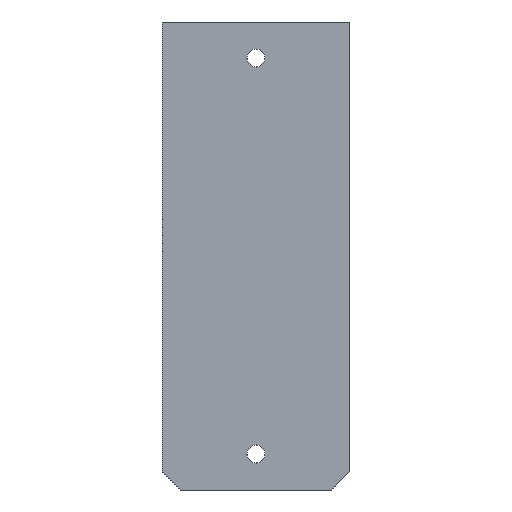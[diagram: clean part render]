
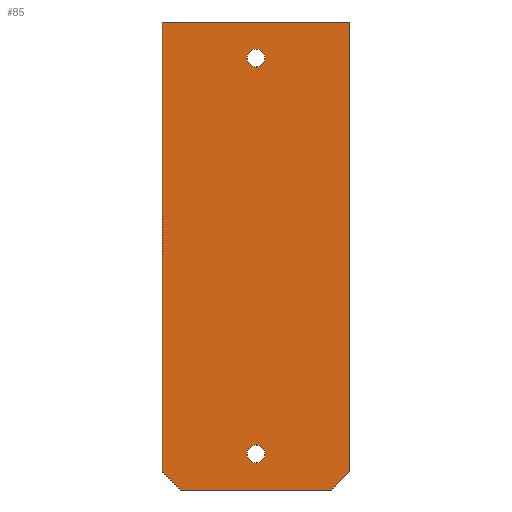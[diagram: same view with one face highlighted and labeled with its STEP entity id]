
A CAD part, front view. The second image highlights one B-rep face of the part: STEP entity #85.
In plain terms, the highlighted planar face has unit normal (0, -1, 0).
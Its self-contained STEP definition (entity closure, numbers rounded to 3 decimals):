
#5 = CIRCLE ( 'NONE', #277, 1. ) ;
#6 = CIRCLE ( 'NONE', #408, 1. ) ;
#10 = VERTEX_POINT ( 'NONE', #170 ) ;
#29 = VECTOR ( 'NONE', #95, 1000. ) ;
#30 = DIRECTION ( 'NONE',  ( 0., 0., 1. ) ) ;
#36 = AXIS2_PLACEMENT_3D ( 'NONE', #138, #236, #238 ) ;
#37 = EDGE_CURVE ( 'NONE', #406, #10, #174, .T. ) ;
#39 = ORIENTED_EDGE ( 'NONE', *, *, #134, .T. ) ;
#44 = ORIENTED_EDGE ( 'NONE', *, *, #297, .F. ) ;
#46 = CARTESIAN_POINT ( 'NONE',  ( 10.4, 0., -26. ) ) ;
#51 = VERTEX_POINT ( 'NONE', #368 ) ;
#61 = CARTESIAN_POINT ( 'NONE',  ( -10.4, 0., -24. ) ) ;
#76 = FACE_BOUND ( 'NONE', #261, .T. ) ;
#85 = ADVANCED_FACE ( 'NONE', ( #76, #200, #286 ), #415, .F. ) ;
#90 = LINE ( 'NONE', #309, #188 ) ;
#91 = CARTESIAN_POINT ( 'NONE',  ( -10.4, 0., -24. ) ) ;
#95 = DIRECTION ( 'NONE',  ( -1., 0., 0. ) ) ;
#96 = EDGE_CURVE ( 'NONE', #290, #258, #347, .T. ) ;
#106 = ORIENTED_EDGE ( 'NONE', *, *, #113, .T. ) ;
#111 = EDGE_LOOP ( 'NONE', ( #39, #227 ) ) ;
#112 = CARTESIAN_POINT ( 'NONE',  ( 0., 0., 22. ) ) ;
#113 = EDGE_CURVE ( 'NONE', #10, #406, #338, .T. ) ;
#123 = CARTESIAN_POINT ( 'NONE',  ( 8.4, 0., -26. ) ) ;
#124 = DIRECTION ( 'NONE',  ( 0., 1., 0. ) ) ;
#129 = VECTOR ( 'NONE', #211, 1000. ) ;
#134 = EDGE_CURVE ( 'NONE', #135, #51, #5, .T. ) ;
#135 = VERTEX_POINT ( 'NONE', #279 ) ;
#138 = CARTESIAN_POINT ( 'NONE',  ( 0., 0., -22. ) ) ;
#152 = EDGE_CURVE ( 'NONE', #391, #258, #154, .T. ) ;
#154 = LINE ( 'NONE', #210, #29 ) ;
#158 = LINE ( 'NONE', #385, #365 ) ;
#165 = ORIENTED_EDGE ( 'NONE', *, *, #196, .F. ) ;
#166 = VECTOR ( 'NONE', #362, 1000. ) ;
#170 = CARTESIAN_POINT ( 'NONE',  ( 0., 0., -23. ) ) ;
#174 = CIRCLE ( 'NONE', #36, 1. ) ;
#177 = DIRECTION ( 'NONE',  ( 0.707, 0., -0.707 ) ) ;
#178 = CARTESIAN_POINT ( 'NONE',  ( -8.4, 0., -26. ) ) ;
#185 = EDGE_CURVE ( 'NONE', #328, #198, #360, .T. ) ;
#188 = VECTOR ( 'NONE', #336, 1000. ) ;
#193 = AXIS2_PLACEMENT_3D ( 'NONE', #376, #217, #30 ) ;
#196 = EDGE_CURVE ( 'NONE', #290, #273, #90, .T. ) ;
#198 = VERTEX_POINT ( 'NONE', #407 ) ;
#200 = FACE_BOUND ( 'NONE', #111, .T. ) ;
#205 = DIRECTION ( 'NONE',  ( 0., 1., 0. ) ) ;
#210 = CARTESIAN_POINT ( 'NONE',  ( -10.4, 0., -26. ) ) ;
#211 = DIRECTION ( 'NONE',  ( 1., 0., 0. ) ) ;
#214 = CARTESIAN_POINT ( 'NONE',  ( 0., 0., 0. ) ) ;
#216 = DIRECTION ( 'NONE',  ( 0.707, 0., 0.707 ) ) ;
#217 = DIRECTION ( 'NONE',  ( 0., 1., 0. ) ) ;
#227 = ORIENTED_EDGE ( 'NONE', *, *, #343, .T. ) ;
#235 = LINE ( 'NONE', #276, #129 ) ;
#236 = DIRECTION ( 'NONE',  ( 0., 1., 0. ) ) ;
#238 = DIRECTION ( 'NONE',  ( 0., 0., 1. ) ) ;
#241 = DIRECTION ( 'NONE',  ( 0., 0., 1. ) ) ;
#258 = VERTEX_POINT ( 'NONE', #178 ) ;
#261 = EDGE_LOOP ( 'NONE', ( #292, #106 ) ) ;
#268 = VECTOR ( 'NONE', #177, 1000. ) ;
#273 = VERTEX_POINT ( 'NONE', #403 ) ;
#275 = DIRECTION ( 'NONE',  ( 0., 1., 0. ) ) ;
#276 = CARTESIAN_POINT ( 'NONE',  ( -10.4, 0., 26. ) ) ;
#277 = AXIS2_PLACEMENT_3D ( 'NONE', #344, #275, #241 ) ;
#279 = CARTESIAN_POINT ( 'NONE',  ( 0., 0., 23. ) ) ;
#283 = CARTESIAN_POINT ( 'NONE',  ( 0., 0., -21. ) ) ;
#286 = FACE_OUTER_BOUND ( 'NONE', #370, .T. ) ;
#290 = VERTEX_POINT ( 'NONE', #61 ) ;
#292 = ORIENTED_EDGE ( 'NONE', *, *, #37, .T. ) ;
#297 = EDGE_CURVE ( 'NONE', #273, #328, #235, .T. ) ;
#309 = CARTESIAN_POINT ( 'NONE',  ( -10.4, 0., -26. ) ) ;
#323 = ORIENTED_EDGE ( 'NONE', *, *, #96, .T. ) ;
#328 = VERTEX_POINT ( 'NONE', #366 ) ;
#336 = DIRECTION ( 'NONE',  ( 0., 0., 1. ) ) ;
#338 = CIRCLE ( 'NONE', #193, 1. ) ;
#343 = EDGE_CURVE ( 'NONE', #51, #135, #6, .T. ) ;
#344 = CARTESIAN_POINT ( 'NONE',  ( 0., 0., 22. ) ) ;
#347 = LINE ( 'NONE', #91, #268 ) ;
#351 = DIRECTION ( 'NONE',  ( 0., 0., 1. ) ) ;
#357 = AXIS2_PLACEMENT_3D ( 'NONE', #214, #124, #410 ) ;
#360 = LINE ( 'NONE', #46, #166 ) ;
#362 = DIRECTION ( 'NONE',  ( 0., 0., -1. ) ) ;
#365 = VECTOR ( 'NONE', #216, 1000. ) ;
#366 = CARTESIAN_POINT ( 'NONE',  ( 10.4, 0., 26. ) ) ;
#367 = ORIENTED_EDGE ( 'NONE', *, *, #185, .F. ) ;
#368 = CARTESIAN_POINT ( 'NONE',  ( 0., 0., 21. ) ) ;
#370 = EDGE_LOOP ( 'NONE', ( #165, #323, #394, #387, #367, #44 ) ) ;
#376 = CARTESIAN_POINT ( 'NONE',  ( 0., 0., -22. ) ) ;
#385 = CARTESIAN_POINT ( 'NONE',  ( 8.4, 0., -26. ) ) ;
#387 = ORIENTED_EDGE ( 'NONE', *, *, #392, .T. ) ;
#391 = VERTEX_POINT ( 'NONE', #123 ) ;
#392 = EDGE_CURVE ( 'NONE', #391, #198, #158, .T. ) ;
#394 = ORIENTED_EDGE ( 'NONE', *, *, #152, .F. ) ;
#403 = CARTESIAN_POINT ( 'NONE',  ( -10.4, 0., 26. ) ) ;
#406 = VERTEX_POINT ( 'NONE', #283 ) ;
#407 = CARTESIAN_POINT ( 'NONE',  ( 10.4, 0., -24. ) ) ;
#408 = AXIS2_PLACEMENT_3D ( 'NONE', #112, #205, #351 ) ;
#410 = DIRECTION ( 'NONE',  ( 0., 0., 1. ) ) ;
#415 = PLANE ( 'NONE',  #357 ) ;
